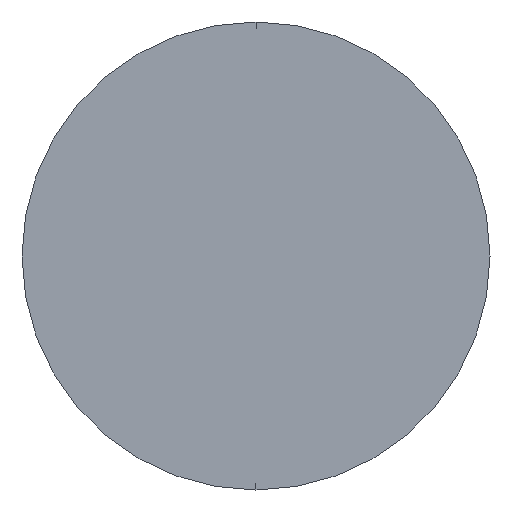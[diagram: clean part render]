
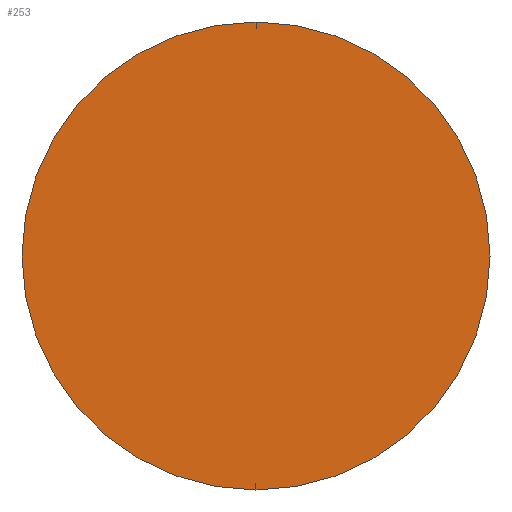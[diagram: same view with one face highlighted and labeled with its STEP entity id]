
A CAD part, left-side view. The second image highlights one B-rep face of the part: STEP entity #253.
In plain terms, the highlighted planar face has unit normal (-1, 0, 0).
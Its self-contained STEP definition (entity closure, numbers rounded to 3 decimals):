
#11 = DIRECTION ( 'NONE',  ( 1., 0., 0. ) ) ;
#19 = AXIS2_PLACEMENT_3D ( 'NONE', #115, #210, #161 ) ;
#20 = CARTESIAN_POINT ( 'NONE',  ( 0., 0., 0. ) ) ;
#30 = CIRCLE ( 'NONE', #66, 3.25 ) ;
#39 = ORIENTED_EDGE ( 'NONE', *, *, #199, .T. ) ;
#59 = CARTESIAN_POINT ( 'NONE',  ( 0., 0., -3.25 ) ) ;
#66 = AXIS2_PLACEMENT_3D ( 'NONE', #20, #239, #242 ) ;
#68 = CARTESIAN_POINT ( 'NONE',  ( 0., 0., 0. ) ) ;
#107 = AXIS2_PLACEMENT_3D ( 'NONE', #68, #11, #150 ) ;
#115 = CARTESIAN_POINT ( 'NONE',  ( 0., 0., 0. ) ) ;
#138 = ORIENTED_EDGE ( 'NONE', *, *, #194, .T. ) ;
#150 = DIRECTION ( 'NONE',  ( 0., 0., -1. ) ) ;
#161 = DIRECTION ( 'NONE',  ( 0., 0., 1. ) ) ;
#162 = EDGE_LOOP ( 'NONE', ( #138, #39 ) ) ;
#170 = VERTEX_POINT ( 'NONE', #59 ) ;
#194 = EDGE_CURVE ( 'NONE', #276, #170, #30, .T. ) ;
#195 = CARTESIAN_POINT ( 'NONE',  ( 0., 0., 3.25 ) ) ;
#199 = EDGE_CURVE ( 'NONE', #170, #276, #240, .T. ) ;
#210 = DIRECTION ( 'NONE',  ( -1., 0., 0. ) ) ;
#221 = PLANE ( 'NONE',  #107 ) ;
#227 = FACE_OUTER_BOUND ( 'NONE', #162, .T. ) ;
#239 = DIRECTION ( 'NONE',  ( -1., 0., 0. ) ) ;
#240 = CIRCLE ( 'NONE', #19, 3.25 ) ;
#242 = DIRECTION ( 'NONE',  ( 0., 0., 1. ) ) ;
#253 = ADVANCED_FACE ( 'NONE', ( #227 ), #221, .F. ) ;
#276 = VERTEX_POINT ( 'NONE', #195 ) ;
